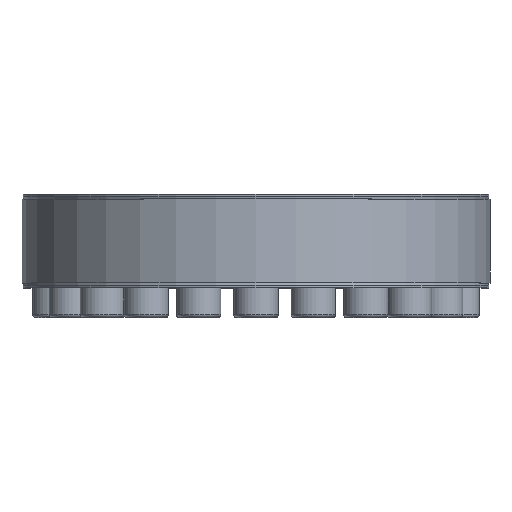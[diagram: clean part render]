
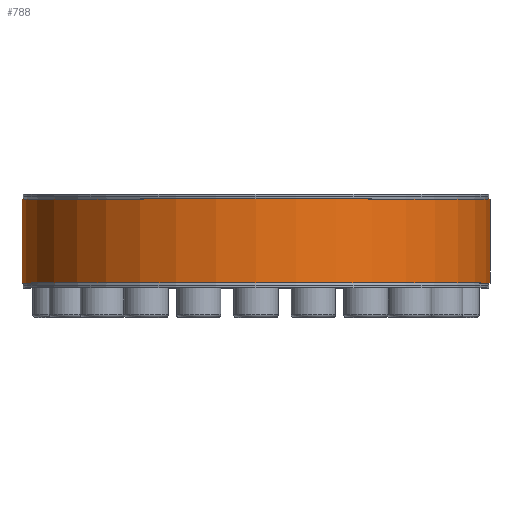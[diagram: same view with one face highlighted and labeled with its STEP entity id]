
A CAD part, top view. The second image highlights one B-rep face of the part: STEP entity #788.
In plain terms, the highlighted cylindrical face has radius 95 mm (diameter 190 mm), a partial arc.
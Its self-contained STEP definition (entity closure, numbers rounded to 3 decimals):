
#788 = ADVANCED_FACE( '', ( #1596 ), #1597, .T. );
#1596 = FACE_OUTER_BOUND( '', #3117, .T. );
#1597 = CYLINDRICAL_SURFACE( '', #3118, 95. );
#3117 = EDGE_LOOP( '', ( #4726, #4727, #4728, #4729 ) );
#3118 = AXIS2_PLACEMENT_3D( '', #4730, #4731, #4732 );
#4726 = ORIENTED_EDGE( '', *, *, #8215, .F. );
#4727 = ORIENTED_EDGE( '', *, *, #8216, .T. );
#4728 = ORIENTED_EDGE( '', *, *, #8217, .T. );
#4729 = ORIENTED_EDGE( '', *, *, #8218, .F. );
#4730 = CARTESIAN_POINT( '', ( 0., -60., 0. ) );
#4731 = DIRECTION( '', ( 0., -1., 0. ) );
#4732 = DIRECTION( '', ( 0., 0., 1. ) );
#8215 = EDGE_CURVE( '', #9184, #9185, #9186, .F. );
#8216 = EDGE_CURVE( '', #9184, #9187, #9188, .T. );
#8217 = EDGE_CURVE( '', #9187, #9189, #9190, .F. );
#8218 = EDGE_CURVE( '', #9185, #9189, #9191, .T. );
#9184 = VERTEX_POINT( '', #10612 );
#9185 = VERTEX_POINT( '', #10613 );
#9186 = LINE( '', #10614, #10615 );
#9187 = VERTEX_POINT( '', #10616 );
#9188 = CIRCLE( '', #10617, 95. );
#9189 = VERTEX_POINT( '', #10618 );
#9190 = LINE( '', #10619, #10620 );
#9191 = CIRCLE( '', #10621, 95. );
#10612 = CARTESIAN_POINT( '', ( 1.583, 17., -94.987 ) );
#10613 = CARTESIAN_POINT( '', ( 1.583, -17., -94.987 ) );
#10614 = CARTESIAN_POINT( '', ( 1.583, -60., -94.987 ) );
#10615 = VECTOR( '', #13297, 1000. );
#10616 = CARTESIAN_POINT( '', ( -1.583, 17., -94.987 ) );
#10617 = AXIS2_PLACEMENT_3D( '', #13298, #13299, #13300 );
#10618 = CARTESIAN_POINT( '', ( -1.583, -17., -94.987 ) );
#10619 = CARTESIAN_POINT( '', ( -1.583, -60., -94.987 ) );
#10620 = VECTOR( '', #13301, 1000. );
#10621 = AXIS2_PLACEMENT_3D( '', #13302, #13303, #13304 );
#13297 = DIRECTION( '', ( 0., 1., 0. ) );
#13298 = CARTESIAN_POINT( '', ( 0., 17., 0. ) );
#13299 = DIRECTION( '', ( 0., -1., 0. ) );
#13300 = DIRECTION( '', ( 0., 0., -1. ) );
#13301 = DIRECTION( '', ( 0., 1., 0. ) );
#13302 = CARTESIAN_POINT( '', ( 0., -17., 0. ) );
#13303 = DIRECTION( '', ( 0., -1., 0. ) );
#13304 = DIRECTION( '', ( 0., 0., -1. ) );
